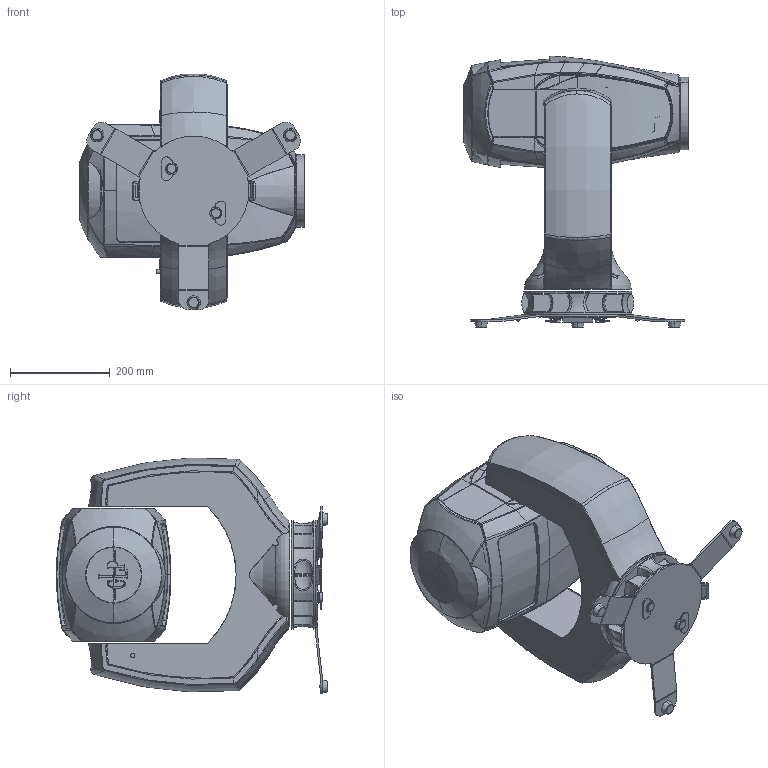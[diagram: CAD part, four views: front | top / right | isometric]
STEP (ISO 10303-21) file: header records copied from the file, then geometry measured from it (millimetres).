
FILE_DESCRIPTION((''),'2;1');
FILE_NAME('GT-1_HEAD_HORIZONTAL_FEET','2016-09-16T',('fw'),(''),'CREO PARAMETRIC BY PTC INC, 2015380','CREO PARAMETRIC BY PTC INC, 2015380','');
FILE_SCHEMA(('AUTOMOTIVE_DESIGN { 1 0 10303 214 1 1 1 1 }'));
Products named in the file (1): GT-1_HEAD_HORIZONTAL_FEET
Bounding box: 452.02 x 543.98 x 473.04 mm (x, y, z)
Surface area: 1215499 mm2 (no closed solid volume)
Topology: 0 solids, 112 shells, 885 faces, 3540 edges, 2726 vertices
Faces by surface type: bspline 363, cylinder 151, plane 139, torus 88, cone 68, extrusion 38, sphere 38
Entity records: 80618 total; most frequent: CARTESIAN_POINT 45753, ORIENTED_EDGE 5051, PRESENTATION_STYLE_ASSIGNMENT 3606, STYLED_ITEM 3575, CURVE_STYLE 3513, EDGE_CURVE 3513, DIRECTION 3314, VERTEX_POINT 2724
